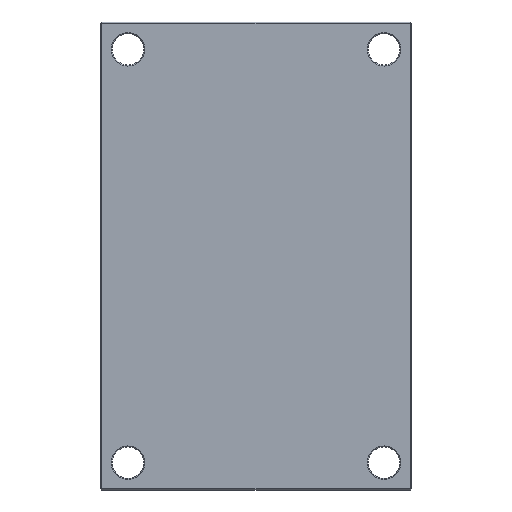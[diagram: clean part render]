
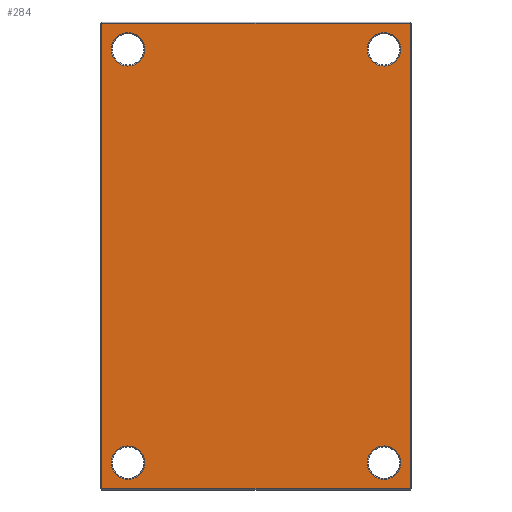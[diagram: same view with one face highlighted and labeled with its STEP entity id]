
A CAD part, front view. The second image highlights one B-rep face of the part: STEP entity #284.
In plain terms, the highlighted planar face has unit normal (0, -1, 0).
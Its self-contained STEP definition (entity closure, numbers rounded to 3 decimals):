
#7 = EDGE_CURVE ( 'NONE', #919, #1451, #658, .T. ) ;
#29 = CARTESIAN_POINT ( 'NONE',  ( 122., 0., -197. ) ) ;
#58 = AXIS2_PLACEMENT_3D ( 'NONE', #1268, #1262, #1245 ) ;
#62 = AXIS2_PLACEMENT_3D ( 'NONE', #264, #230, #217 ) ;
#74 = AXIS2_PLACEMENT_3D ( 'NONE', #29, #1116, #1522 ) ;
#75 = LINE ( 'NONE', #1252, #977 ) ;
#76 = EDGE_LOOP ( 'NONE', ( #885, #1008 ) ) ;
#121 = CARTESIAN_POINT ( 'NONE',  ( -147., 0., -222. ) ) ;
#125 = AXIS2_PLACEMENT_3D ( 'NONE', #318, #283, #250 ) ;
#128 = EDGE_LOOP ( 'NONE', ( #1121, #1142 ) ) ;
#132 = DIRECTION ( 'NONE',  ( 0., 1., 0. ) ) ;
#150 = CARTESIAN_POINT ( 'NONE',  ( 122., 0., 197. ) ) ;
#202 = CIRCLE ( 'NONE', #880, 16. ) ;
#217 = DIRECTION ( 'NONE',  ( 0., 0., 1. ) ) ;
#230 = DIRECTION ( 'NONE',  ( 0., 1., 0. ) ) ;
#250 = DIRECTION ( 'NONE',  ( 0., 0., 1. ) ) ;
#264 = CARTESIAN_POINT ( 'NONE',  ( -122., 0., 197. ) ) ;
#283 = DIRECTION ( 'NONE',  ( 0., 1., 0. ) ) ;
#284 = ADVANCED_FACE ( 'NONE', ( #696, #1900, #1445, #1056, #644 ), #1582, .F. ) ;
#318 = CARTESIAN_POINT ( 'NONE',  ( -122., 0., -197. ) ) ;
#360 = CARTESIAN_POINT ( 'NONE',  ( 147., 0., 222. ) ) ;
#520 = ORIENTED_EDGE ( 'NONE', *, *, #1886, .T. ) ;
#551 = VERTEX_POINT ( 'NONE', #1463 ) ;
#595 = CARTESIAN_POINT ( 'NONE',  ( 122., 0., 181. ) ) ;
#596 = VECTOR ( 'NONE', #2068, 1000. ) ;
#601 = ORIENTED_EDGE ( 'NONE', *, *, #2152, .T. ) ;
#604 = ORIENTED_EDGE ( 'NONE', *, *, #1861, .T. ) ;
#619 = CARTESIAN_POINT ( 'NONE',  ( -122., 0., 181. ) ) ;
#644 = FACE_OUTER_BOUND ( 'NONE', #894, .T. ) ;
#655 = VECTOR ( 'NONE', #1540, 1000. ) ;
#658 = LINE ( 'NONE', #1944, #655 ) ;
#663 = CIRCLE ( 'NONE', #58, 16. ) ;
#672 = AXIS2_PLACEMENT_3D ( 'NONE', #1501, #825, #780 ) ;
#696 = FACE_BOUND ( 'NONE', #730, .T. ) ;
#730 = EDGE_LOOP ( 'NONE', ( #520, #601 ) ) ;
#758 = VERTEX_POINT ( 'NONE', #619 ) ;
#780 = DIRECTION ( 'NONE',  ( 0., 0., 1. ) ) ;
#802 = VERTEX_POINT ( 'NONE', #1307 ) ;
#817 = AXIS2_PLACEMENT_3D ( 'NONE', #1615, #1727, #1765 ) ;
#818 = CARTESIAN_POINT ( 'NONE',  ( 147., 0., 0. ) ) ;
#819 = CIRCLE ( 'NONE', #1045, 16. ) ;
#825 = DIRECTION ( 'NONE',  ( 0., 1., 0. ) ) ;
#863 = VERTEX_POINT ( 'NONE', #360 ) ;
#865 = ORIENTED_EDGE ( 'NONE', *, *, #2157, .T. ) ;
#880 = AXIS2_PLACEMENT_3D ( 'NONE', #915, #909, #901 ) ;
#881 = VERTEX_POINT ( 'NONE', #1890 ) ;
#885 = ORIENTED_EDGE ( 'NONE', *, *, #1840, .T. ) ;
#894 = EDGE_LOOP ( 'NONE', ( #1171, #1178, #1198, #1782 ) ) ;
#901 = DIRECTION ( 'NONE',  ( 0., 0., 1. ) ) ;
#909 = DIRECTION ( 'NONE',  ( 0., 1., 0. ) ) ;
#915 = CARTESIAN_POINT ( 'NONE',  ( 122., 0., -197. ) ) ;
#919 = VERTEX_POINT ( 'NONE', #121 ) ;
#964 = AXIS2_PLACEMENT_3D ( 'NONE', #150, #132, #2037 ) ;
#977 = VECTOR ( 'NONE', #2113, 1000. ) ;
#1008 = ORIENTED_EDGE ( 'NONE', *, *, #2162, .T. ) ;
#1027 = LINE ( 'NONE', #2049, #596 ) ;
#1045 = AXIS2_PLACEMENT_3D ( 'NONE', #1987, #1973, #1821 ) ;
#1056 = FACE_BOUND ( 'NONE', #128, .T. ) ;
#1074 = LINE ( 'NONE', #818, #1412 ) ;
#1080 = CARTESIAN_POINT ( 'NONE',  ( -122., 0., 213. ) ) ;
#1116 = DIRECTION ( 'NONE',  ( 0., 1., 0. ) ) ;
#1118 = CIRCLE ( 'NONE', #125, 16. ) ;
#1121 = ORIENTED_EDGE ( 'NONE', *, *, #1825, .T. ) ;
#1142 = ORIENTED_EDGE ( 'NONE', *, *, #2163, .T. ) ;
#1171 = ORIENTED_EDGE ( 'NONE', *, *, #2164, .T. ) ;
#1176 = CIRCLE ( 'NONE', #964, 16. ) ;
#1178 = ORIENTED_EDGE ( 'NONE', *, *, #2173, .T. ) ;
#1180 = CARTESIAN_POINT ( 'NONE',  ( 122., 0., -213. ) ) ;
#1198 = ORIENTED_EDGE ( 'NONE', *, *, #2178, .T. ) ;
#1241 = CARTESIAN_POINT ( 'NONE',  ( 147., 0., -222. ) ) ;
#1245 = DIRECTION ( 'NONE',  ( 0., 0., 1. ) ) ;
#1252 = CARTESIAN_POINT ( 'NONE',  ( -147., 0., 0. ) ) ;
#1262 = DIRECTION ( 'NONE',  ( 0., 1., 0. ) ) ;
#1268 = CARTESIAN_POINT ( 'NONE',  ( 122., 0., 197. ) ) ;
#1286 = DIRECTION ( 'NONE',  ( 0., 0., 1. ) ) ;
#1307 = CARTESIAN_POINT ( 'NONE',  ( -122., 0., -213. ) ) ;
#1399 = VERTEX_POINT ( 'NONE', #1180 ) ;
#1412 = VECTOR ( 'NONE', #1286, 1000. ) ;
#1445 = FACE_BOUND ( 'NONE', #76, .T. ) ;
#1451 = VERTEX_POINT ( 'NONE', #1241 ) ;
#1461 = CIRCLE ( 'NONE', #62, 16. ) ;
#1463 = CARTESIAN_POINT ( 'NONE',  ( -122., 0., -181. ) ) ;
#1501 = CARTESIAN_POINT ( 'NONE',  ( 0., 0., 0. ) ) ;
#1522 = DIRECTION ( 'NONE',  ( 0., 0., 1. ) ) ;
#1540 = DIRECTION ( 'NONE',  ( 1., 0., 0. ) ) ;
#1582 = PLANE ( 'NONE',  #672 ) ;
#1615 = CARTESIAN_POINT ( 'NONE',  ( -122., 0., -197. ) ) ;
#1636 = CARTESIAN_POINT ( 'NONE',  ( 122., 0., -181. ) ) ;
#1727 = DIRECTION ( 'NONE',  ( 0., 1., 0. ) ) ;
#1765 = DIRECTION ( 'NONE',  ( 0., 0., 1. ) ) ;
#1782 = ORIENTED_EDGE ( 'NONE', *, *, #7, .T. ) ;
#1821 = DIRECTION ( 'NONE',  ( 0., 0., 1. ) ) ;
#1822 = VERTEX_POINT ( 'NONE', #1636 ) ;
#1825 = EDGE_CURVE ( 'NONE', #758, #2079, #819, .T. ) ;
#1827 = VERTEX_POINT ( 'NONE', #2145 ) ;
#1840 = EDGE_CURVE ( 'NONE', #1878, #1827, #1176, .T. ) ;
#1861 = EDGE_CURVE ( 'NONE', #1399, #1822, #202, .T. ) ;
#1878 = VERTEX_POINT ( 'NONE', #595 ) ;
#1886 = EDGE_CURVE ( 'NONE', #802, #551, #1922, .T. ) ;
#1890 = CARTESIAN_POINT ( 'NONE',  ( -147., 0., 222. ) ) ;
#1900 = FACE_BOUND ( 'NONE', #2095, .T. ) ;
#1922 = CIRCLE ( 'NONE', #817, 16. ) ;
#1944 = CARTESIAN_POINT ( 'NONE',  ( 0., 0., -222. ) ) ;
#1970 = CIRCLE ( 'NONE', #74, 16. ) ;
#1973 = DIRECTION ( 'NONE',  ( 0., 1., 0. ) ) ;
#1987 = CARTESIAN_POINT ( 'NONE',  ( -122., 0., 197. ) ) ;
#2037 = DIRECTION ( 'NONE',  ( 0., 0., 1. ) ) ;
#2049 = CARTESIAN_POINT ( 'NONE',  ( 0., 0., 222. ) ) ;
#2068 = DIRECTION ( 'NONE',  ( -1., 0., 0. ) ) ;
#2079 = VERTEX_POINT ( 'NONE', #1080 ) ;
#2095 = EDGE_LOOP ( 'NONE', ( #604, #865 ) ) ;
#2113 = DIRECTION ( 'NONE',  ( 0., 0., -1. ) ) ;
#2145 = CARTESIAN_POINT ( 'NONE',  ( 122., 0., 213. ) ) ;
#2152 = EDGE_CURVE ( 'NONE', #551, #802, #1118, .T. ) ;
#2157 = EDGE_CURVE ( 'NONE', #1822, #1399, #1970, .T. ) ;
#2162 = EDGE_CURVE ( 'NONE', #1827, #1878, #663, .T. ) ;
#2163 = EDGE_CURVE ( 'NONE', #2079, #758, #1461, .T. ) ;
#2164 = EDGE_CURVE ( 'NONE', #1451, #863, #1074, .T. ) ;
#2173 = EDGE_CURVE ( 'NONE', #863, #881, #1027, .T. ) ;
#2178 = EDGE_CURVE ( 'NONE', #881, #919, #75, .T. ) ;
